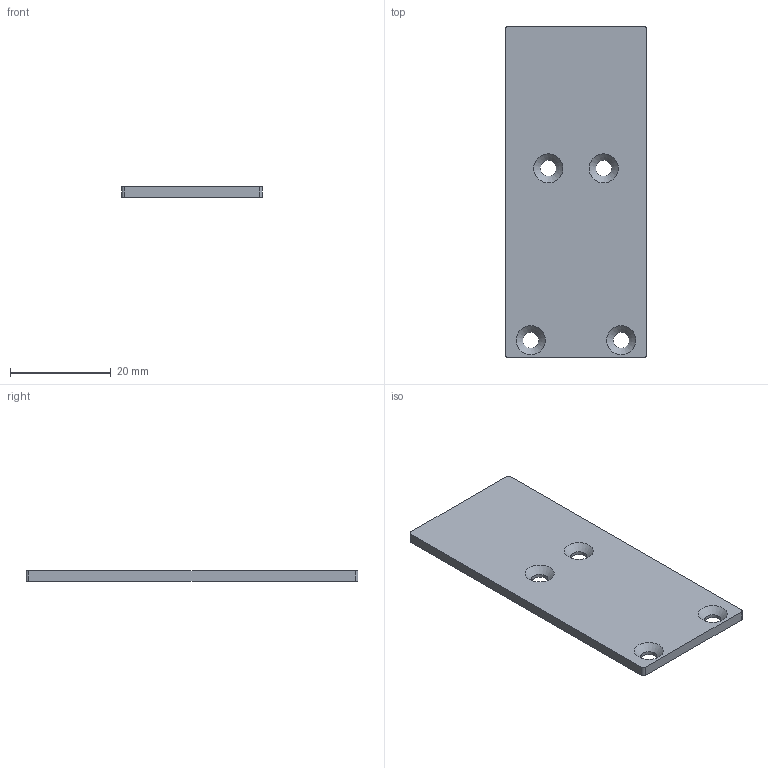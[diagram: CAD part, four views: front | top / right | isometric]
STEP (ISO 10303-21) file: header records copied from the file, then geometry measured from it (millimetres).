
FILE_DESCRIPTION(/* description */ ('Unknown'),/* implementation_level */ '2;1');
FILE_NAME(/* name */ '98840',/* time_stamp */ '2023-02-07T08:05:42-05:00',/* author */ ('Unknown'),/* organization */ ('Unknown'),/* preprocessor_version */ 'ST-DEVELOPER v18.1',/* originating_system */ 'Solid Edge',/* authorisation */ 'Unknown');
FILE_SCHEMA (('AUTOMOTIVE_DESIGN {1 0 10303 214 3 1 1}'));
Length unit declared in the file: millimetre
Products named in the file (1): LED-TAP171
Bounding box: 28 x 66 x 2 mm (x, y, z)
Volume: 3588 mm3; surface area: 4064.1 mm2
Topology: 1 solids, 1 shells, 18 faces, 48 edges, 32 vertices
Faces by surface type: cylinder 8, plane 6, cone 4
Full cylindrical faces by diameter (mm): 3.2 x4
Entity records: 542 total; most frequent: DIRECTION 94, CARTESIAN_POINT 83, ORIENTED_EDGE 72, AXIS2_PLACEMENT_3D 39, EDGE_CURVE 36, EDGE_LOOP 34, FACE_BOUND 34, VERTEX_POINT 28
